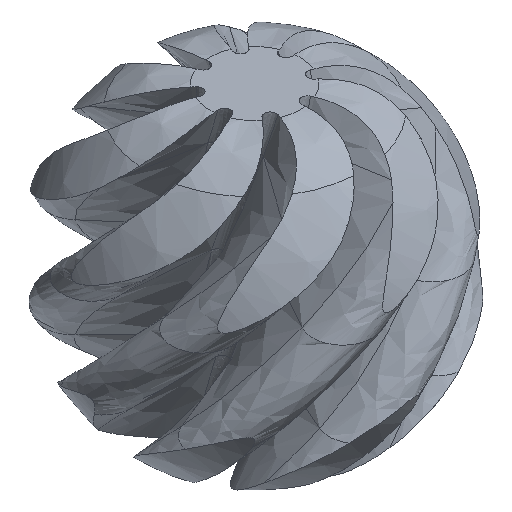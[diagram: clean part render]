
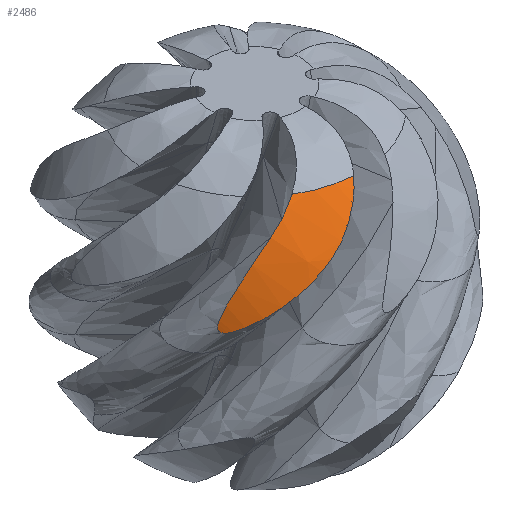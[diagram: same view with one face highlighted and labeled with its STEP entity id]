
A CAD part, isometric view. The second image highlights one B-rep face of the part: STEP entity #2486.
In plain terms, the highlighted free-form (B-spline) face has degree [2, 2] with [3, 3] control points.
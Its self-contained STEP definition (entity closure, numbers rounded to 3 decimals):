
#31=(
BOUNDED_SURFACE()
B_SPLINE_SURFACE(2,2,((#8749,#8750,#8751),(#8752,#8753,#8754),(#8755,#8756,
#8757)),.UNSPECIFIED.,.F.,.F.,.F.)
B_SPLINE_SURFACE_WITH_KNOTS((3,3),(3,3),(-0.867,-0.274),
(-1.499,-0.618),.UNSPECIFIED.)
GEOMETRIC_REPRESENTATION_ITEM()
RATIONAL_B_SPLINE_SURFACE(((1.,0.904,1.),(0.956,
0.865,0.956),(1.,0.904,1.)))
REPRESENTATION_ITEM('')
SURFACE()
);
#71=CIRCLE('',#2543,8.995);
#226=FACE_OUTER_BOUND('',#388,.T.);
#388=EDGE_LOOP('',(#2081,#2082,#2083,#2084,#2085,#2086));
#553=B_SPLINE_CURVE_WITH_KNOTS('',3,(#4712,#4713,#4714,#4715),
 .UNSPECIFIED.,.F.,.F.,(4,4),(0.,0.167),.UNSPECIFIED.);
#555=B_SPLINE_CURVE_WITH_KNOTS('',3,(#4741,#4742,#4743,#4744),
 .UNSPECIFIED.,.F.,.F.,(4,4),(0.,0.136),.UNSPECIFIED.);
#559=B_SPLINE_CURVE_WITH_KNOTS('',3,(#4812,#4813,#4814,#4815,#4816,#4817,
#4818,#4819,#4820,#4821,#4822,#4823,#4824,#4825,#4826,#4827,#4828,#4829,
#4830,#4831,#4832,#4833,#4834,#4835,#4836,#4837),.UNSPECIFIED.,.F.,.F.,
(4,2,2,2,2,2,2,2,2,2,2,2,4),(0.,0.228,0.51,0.816,
0.928,0.992,1.024,1.047,1.067,
1.096,1.152,1.284,1.767),
 .UNSPECIFIED.);
#562=B_SPLINE_CURVE_WITH_KNOTS('',3,(#4875,#4876,#4877,#4878),
 .UNSPECIFIED.,.F.,.F.,(4,4),(0.,0.129),.UNSPECIFIED.);
#566=B_SPLINE_CURVE_WITH_KNOTS('',3,(#4911,#4912,#4913,#4914),
 .UNSPECIFIED.,.F.,.F.,(4,4),(0.,0.165),.UNSPECIFIED.);
#885=VERTEX_POINT('',#4702);
#886=VERTEX_POINT('',#4711);
#887=VERTEX_POINT('',#4740);
#890=VERTEX_POINT('',#4811);
#892=VERTEX_POINT('',#4874);
#895=VERTEX_POINT('',#4910);
#1161=EDGE_CURVE('',#885,#886,#553,.T.);
#1163=EDGE_CURVE('',#886,#887,#555,.T.);
#1167=EDGE_CURVE('',#887,#890,#559,.T.);
#1170=EDGE_CURVE('',#890,#892,#562,.T.);
#1174=EDGE_CURVE('',#892,#895,#566,.T.);
#1405=EDGE_CURVE('',#885,#895,#71,.T.);
#2081=ORIENTED_EDGE('',*,*,#1161,.F.);
#2082=ORIENTED_EDGE('',*,*,#1405,.T.);
#2083=ORIENTED_EDGE('',*,*,#1174,.F.);
#2084=ORIENTED_EDGE('',*,*,#1170,.F.);
#2085=ORIENTED_EDGE('',*,*,#1167,.F.);
#2086=ORIENTED_EDGE('',*,*,#1163,.F.);
#2486=ADVANCED_FACE('',(#226),#31,.F.);
#2543=AXIS2_PLACEMENT_3D('',#8758,#2603,#2604);
#2603=DIRECTION('center_axis',(0.,0.,-1.));
#2604=DIRECTION('ref_axis',(1.,0.,0.));
#4702=CARTESIAN_POINT('',(-0.705,-8.972,31.512));
#4711=CARTESIAN_POINT('',(-1.697,-9.892,30.544));
#4712=CARTESIAN_POINT('Ctrl Pts',(-0.705,-8.972,
31.512));
#4713=CARTESIAN_POINT('Ctrl Pts',(-1.,-9.324,
31.197));
#4714=CARTESIAN_POINT('Ctrl Pts',(-1.332,-9.631,30.873));
#4715=CARTESIAN_POINT('Ctrl Pts',(-1.697,-9.892,30.544));
#4740=CARTESIAN_POINT('',(-2.631,-10.444,29.723));
#4741=CARTESIAN_POINT('Ctrl Pts',(-1.697,-9.892,30.544));
#4742=CARTESIAN_POINT('Ctrl Pts',(-1.994,-10.105,30.275));
#4743=CARTESIAN_POINT('Ctrl Pts',(-2.307,-10.289,30.001));
#4744=CARTESIAN_POINT('Ctrl Pts',(-2.631,-10.444,29.723));
#4811=CARTESIAN_POINT('',(-6.947,-8.229,29.756));
#4812=CARTESIAN_POINT('Ctrl Pts',(-2.631,-10.444,29.723));
#4813=CARTESIAN_POINT('Ctrl Pts',(-3.173,-10.704,29.258));
#4814=CARTESIAN_POINT('Ctrl Pts',(-3.855,-10.876,28.759));
#4815=CARTESIAN_POINT('Ctrl Pts',(-5.596,-10.939,27.585));
#4816=CARTESIAN_POINT('Ctrl Pts',(-6.633,-10.75,26.943));
#4817=CARTESIAN_POINT('Ctrl Pts',(-8.746,-9.88,25.654));
#4818=CARTESIAN_POINT('Ctrl Pts',(-9.59,-9.252,25.144));
#4819=CARTESIAN_POINT('Ctrl Pts',(-10.312,-8.594,24.774));
#4820=CARTESIAN_POINT('Ctrl Pts',(-10.478,-8.424,24.699));
#4821=CARTESIAN_POINT('Ctrl Pts',(-10.683,-8.189,24.641));
#4822=CARTESIAN_POINT('Ctrl Pts',(-10.757,-8.098,24.628));
#4823=CARTESIAN_POINT('Ctrl Pts',(-10.844,-7.973,24.646));
#4824=CARTESIAN_POINT('Ctrl Pts',(-10.871,-7.93,24.658));
#4825=CARTESIAN_POINT('Ctrl Pts',(-10.907,-7.863,24.697));
#4826=CARTESIAN_POINT('Ctrl Pts',(-10.918,-7.837,24.718));
#4827=CARTESIAN_POINT('Ctrl Pts',(-10.931,-7.794,24.769));
#4828=CARTESIAN_POINT('Ctrl Pts',(-10.933,-7.777,24.797));
#4829=CARTESIAN_POINT('Ctrl Pts',(-10.931,-7.743,24.868));
#4830=CARTESIAN_POINT('Ctrl Pts',(-10.924,-7.73,24.913));
#4831=CARTESIAN_POINT('Ctrl Pts',(-10.895,-7.704,25.04));
#4832=CARTESIAN_POINT('Ctrl Pts',(-10.863,-7.699,25.131));
#4833=CARTESIAN_POINT('Ctrl Pts',(-10.753,-7.698,25.404));
#4834=CARTESIAN_POINT('Ctrl Pts',(-10.633,-7.725,25.637));
#4835=CARTESIAN_POINT('Ctrl Pts',(-9.929,-7.904,26.82));
#4836=CARTESIAN_POINT('Ctrl Pts',(-8.785,-8.246,28.314));
#4837=CARTESIAN_POINT('Ctrl Pts',(-6.947,-8.229,29.756));
#4874=CARTESIAN_POINT('',(-5.929,-8.131,30.544));
#4875=CARTESIAN_POINT('Ctrl Pts',(-6.947,-8.229,29.756));
#4876=CARTESIAN_POINT('Ctrl Pts',(-6.608,-8.226,30.022));
#4877=CARTESIAN_POINT('Ctrl Pts',(-6.268,-8.194,30.285));
#4878=CARTESIAN_POINT('Ctrl Pts',(-5.929,-8.131,30.544));
#4910=CARTESIAN_POINT('',(-4.666,-7.729,31.512));
#4911=CARTESIAN_POINT('Ctrl Pts',(-5.929,-8.131,30.544));
#4912=CARTESIAN_POINT('Ctrl Pts',(-5.498,-8.051,30.874));
#4913=CARTESIAN_POINT('Ctrl Pts',(-5.074,-7.918,31.197));
#4914=CARTESIAN_POINT('Ctrl Pts',(-4.666,-7.729,31.512));
#8749=CARTESIAN_POINT('Ctrl Pts',(-0.705,-8.972,
31.512));
#8750=CARTESIAN_POINT('Ctrl Pts',(-4.936,-8.67,31.512));
#8751=CARTESIAN_POINT('Ctrl Pts',(-7.395,-5.214,31.512));
#8752=CARTESIAN_POINT('Ctrl Pts',(-0.938,-12.224,
28.745));
#8753=CARTESIAN_POINT('Ctrl Pts',(-6.702,-11.813,28.745));
#8754=CARTESIAN_POINT('Ctrl Pts',(-10.051,-7.104,28.745));
#8755=CARTESIAN_POINT('Ctrl Pts',(-1.02,-13.379,24.628));
#8756=CARTESIAN_POINT('Ctrl Pts',(-7.329,-12.928,24.628));
#8757=CARTESIAN_POINT('Ctrl Pts',(-10.994,-7.774,24.628));
#8758=CARTESIAN_POINT('Origin',(-0.064,0.,31.512));
